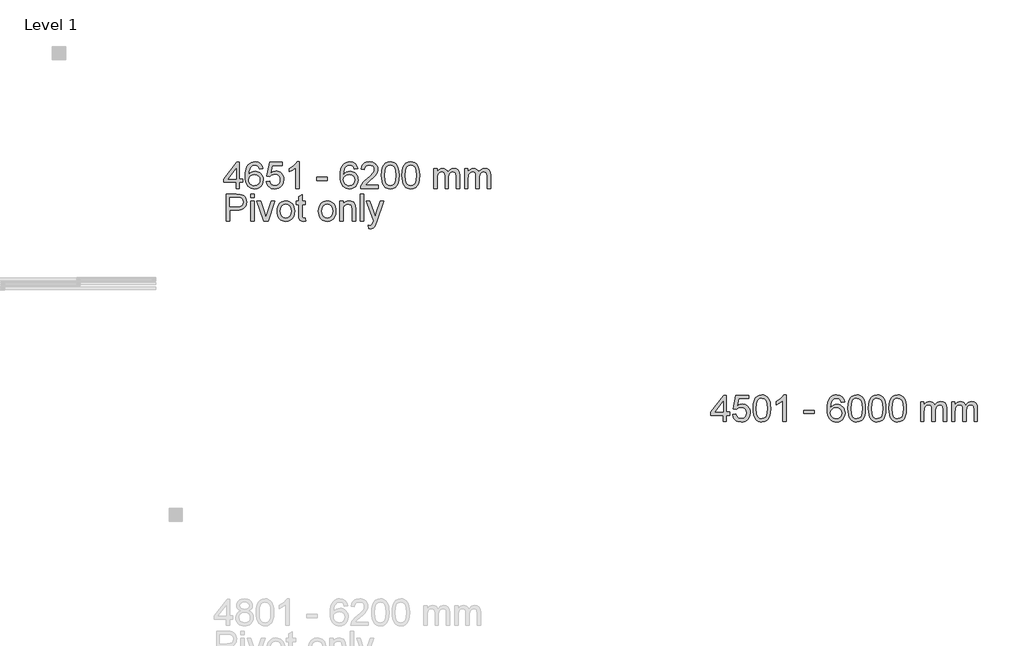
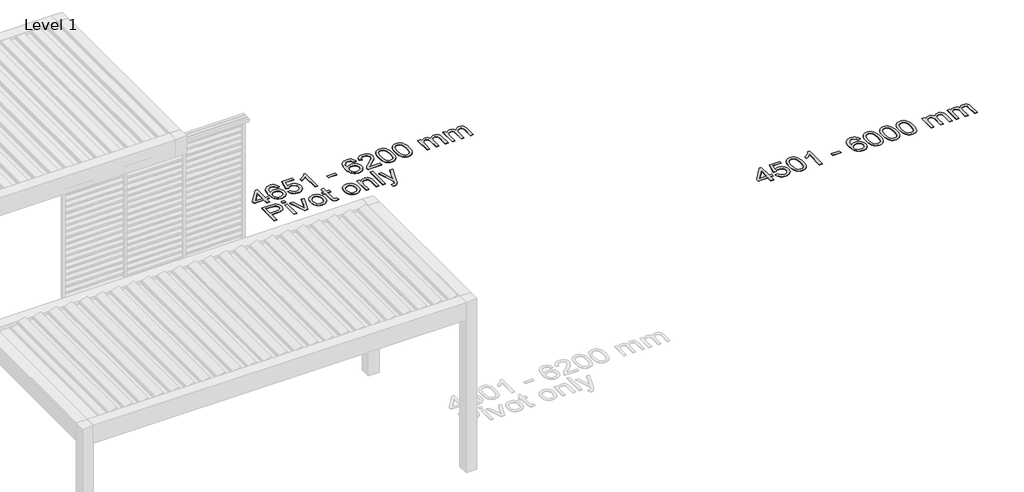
# One storey, part 27 of 69: 2 proxies.
"""IFC4 building model written with IfcOpenShell, lengths in millimetres."""

from ifc_helpers import new_model, si_unit, origin, origin_with_axes, place, context, project, spatial, polyline, outline, extrude, element, save

model = new_model("IFC4")

# Units and contexts
model_context = context("Model", 3, world=origin())
ifc_project = project(units=[si_unit("LENGTHUNIT", "METRE", prefix="MILLI")], contexts=[model_context])

# Site, building, storey
site = spatial("IfcSite", under=ifc_project)
building = spatial("IfcBuilding", under=site)
storey = spatial("IfcBuildingStorey", under=building, Name="Level 1", Elevation=0.0)

# Proxies
placement = place(None, origin())
element("IfcBuildingElementProxy", 1, Name="300mm Arial", ObjectType="300mm Arial", at=placement, inside=storey, context=model_context, shape_type="SweptSolid", body=[
    extrude(outline(polyline([(235334.24809, -31945.7054835), (235334.24809, -31875.0721404), (235197.6902934, -31875.0721404), (235197.6902934, -31837.4010241), (235343.6658691, -31649.0454426), (235371.9192063, -31649.0454426), (235371.9192063, -31837.4010241), (235409.5903226, -31837.4010241), (235409.5903226, -31875.0721404), (235371.9192063, -31875.0721404), (235371.9192063, -31945.7054835), (235334.24809, -31945.7054835)]), holes=[polyline([(235334.24809, -31837.4010241), (235334.24809, -31721.0031609), (235244.0434248, -31837.4010241), (235334.24809, -31837.4010241)])]), origin_with_axes(), (0.0, 0.0, 1.0), 5.0),
    extrude(outline(polyline([(235635.6170204, -31724.3876752), (235597.9459041, -31729.0965647), (235591.8758512, -31710.4265535), (235583.6720827, -31697.6794424), (235566.5839641, -31685.9256126), (235545.92739, -31682.0076694), (235528.4162071, -31684.2885377), (235511.9350937, -31691.1311428), (235497.7808339, -31705.54292), (235486.2201422, -31725.3809566), (235478.4118469, -31753.4411558), (235475.5147761, -31792.5194207), (235490.6255291, -31774.8886761), (235508.7345203, -31762.4634617), (235528.8300743, -31755.0966248), (235549.9005156, -31752.6410124), (235568.0003097, -31754.319474), (235584.7021523, -31759.3548588), (235600.0060433, -31767.7471669), (235613.9119827, -31779.4963981), (235625.4680759, -31793.9035767), (235633.7224282, -31810.269727), (235638.6750395, -31828.5948489), (235640.32591, -31848.8789424), (235637.2173071, -31875.8538897), (235627.8914985, -31900.8606683), (235613.1210364, -31922.0690653), (235593.678473, -31937.6488678), (235570.446725, -31947.2229967), (235544.3087092, -31950.414373), (235521.8518127, -31948.2990516), (235501.5700185, -31941.9530872), (235483.4633265, -31931.3764798), (235467.5317369, -31916.5692295), (235454.5432032, -31896.9059368), (235445.2656791, -31871.7612025), (235439.6991647, -31841.1350264), (235437.8436598, -31805.0274086), (235439.903799, -31764.5465935), (235446.0842165, -31729.9978756), (235456.3849124, -31701.3812549), (235470.8058866, -31678.6967314), (235486.4362729, -31663.6641534), (235504.5590597, -31652.9265976), (235525.174247, -31646.4840642), (235548.2818348, -31644.3365531), (235581.3360321, -31649.6524479), (235607.8051416, -31665.6001324), (235626.3463942, -31690.9288077), (235635.6170204, -31724.3876752)]), holes=[polyline([(235475.5147761, -31848.2903312), (235477.694477, -31864.9829767), (235484.2335794, -31880.9214642), (235494.3871225, -31894.6250685), (235507.4101451, -31904.6130646), (235523.1279034, -31910.7107087), (235541.3656533, -31912.7432567), (235566.2252791, -31908.5310079), (235585.7690101, -31895.8942614), (235598.4333478, -31876.0286336), (235602.6547937, -31850.1297412), (235598.4885301, -31825.2701153), (235585.9897393, -31806.3149955), (235566.1149145, -31794.3128454), (235539.8205489, -31790.3121287), (235514.9977113, -31794.3128454), (235494.2399697, -31806.3149955), (235480.1960745, -31824.8102628), (235475.5147761, -31848.2903312)])]), origin_with_axes(), (0.0, 0.0, 1.0), 5.0),
    extrude(outline(polyline([(235673.2881368, -31865.6543614), (235710.9592531, -31860.9454718), (235717.8754346, -31883.5610175), (235729.941964, -31899.7570223), (235747.1036591, -31909.4966981), (235769.3053375, -31912.7432567), (235796.3078759, -31908.2275052), (235816.5413857, -31894.6802508), (235829.1781322, -31873.6649918), (235833.3903811, -31846.7452268), (235829.4448467, -31821.3981573), (235817.6082435, -31802.0107762), (235797.788601, -31789.7051235), (235769.8939487, -31785.6032392), (235751.6194106, -31787.2403141), (235736.8213573, -31792.1515387), (235715.6681426, -31809.1476869), (235677.9970263, -31804.4387974), (235710.9592531, -31649.0454426), (235856.9348287, -31649.0454426), (235856.9348287, -31686.7165589), (235741.4198823, -31686.7165589), (235725.3066509, -31769.710737), (235752.2172188, -31753.3767764), (235780.4153738, -31747.9321229), (235798.761189, -31749.6197816), (235815.6124836, -31754.6827575), (235830.9692577, -31763.1210508), (235844.8315111, -31774.9346613), (235856.3071301, -31789.4016208), (235864.5040008, -31805.7999607), (235869.4221232, -31824.1296812), (235871.0614974, -31844.390782), (235865.1569913, -31882.0618983), (235857.7763588, -31898.8557114), (235847.4434733, -31914.2883611), (235831.7900944, -31930.0934913), (235813.5247533, -31941.3828701), (235792.6474501, -31948.1564973), (235769.1581847, -31950.414373), (235732.158453, -31944.6110346), (235716.4797823, -31937.3568615), (235702.6819082, -31927.2010191), (235691.2016907, -31914.6493453), (235682.4759896, -31900.2076778), (235673.2881368, -31865.6543614)])), origin_with_axes(), (0.0, 0.0, 1.0), 5.0),
    extrude(outline(polyline([(236045.2904103, -31945.7054835), (236007.619294, -31945.7054835), (236007.619294, -31710.8496178), (235971.9347404, -31736.2702637), (235932.2770614, -31755.2897628), (235932.2770614, -31719.6787857), (235961.8639708, -31703.5839484), (235987.4961488, -31684.4356905), (236007.7020674, -31664.0734221), (236021.0101986, -31644.3365531), (236045.2904103, -31644.3365531), (236045.2904103, -31945.7054835)])), origin_with_axes(), (0.0, 0.0, 1.0), 5.0),
    extrude(outline(polyline([(236243.0637709, -31856.2365823), (236243.0637709, -31818.565466), (236360.7860093, -31818.565466), (236360.7860093, -31856.2365823), (236243.0637709, -31856.2365823)])), origin_with_axes(), (0.0, 0.0, 1.0), 5.0),
    extrude(outline(polyline([(236704.5349456, -31724.3876752), (236666.8638293, -31729.0965647), (236660.7937764, -31710.4265535), (236652.5900079, -31697.6794424), (236635.5018892, -31685.9256126), (236614.8453152, -31682.0076694), (236597.3341322, -31684.2885377), (236580.8530189, -31691.1311428), (236566.6987591, -31705.54292), (236555.1380674, -31725.3809566), (236547.329772, -31753.4411558), (236544.4327013, -31792.5194207), (236559.5434543, -31774.8886761), (236577.6524455, -31762.4634617), (236597.7479995, -31755.0966248), (236618.8184408, -31752.6410124), (236636.9182349, -31754.319474), (236653.6200775, -31759.3548588), (236668.9239685, -31767.7471669), (236682.8299079, -31779.4963981), (236694.3860011, -31793.9035767), (236702.6403534, -31810.269727), (236707.5929647, -31828.5948489), (236709.2438352, -31848.8789424), (236706.1352323, -31875.8538897), (236696.8094237, -31900.8606683), (236682.0389616, -31922.0690653), (236662.5963982, -31937.6488678), (236639.3646502, -31947.2229967), (236613.2266344, -31950.414373), (236590.7697379, -31948.2990516), (236570.4879436, -31941.9530872), (236552.3812517, -31931.3764798), (236536.449662, -31916.5692295), (236523.4611283, -31896.9059368), (236514.1836043, -31871.7612025), (236508.6170898, -31841.1350264), (236506.761585, -31805.0274086), (236508.8217242, -31764.5465935), (236515.0021417, -31729.9978756), (236525.3028376, -31701.3812549), (236539.7238118, -31678.6967314), (236555.3541981, -31663.6641534), (236573.4769849, -31652.9265976), (236594.0921722, -31646.4840642), (236617.19976, -31644.3365531), (236650.2539572, -31649.6524479), (236676.7230668, -31665.6001324), (236695.2643194, -31690.9288077), (236704.5349456, -31724.3876752)]), holes=[polyline([(236544.4327013, -31848.2903312), (236546.6124022, -31864.9829767), (236553.1515046, -31880.9214642), (236563.3050477, -31894.6250685), (236576.3280703, -31904.6130646), (236592.0458286, -31910.7107087), (236610.2835785, -31912.7432567), (236635.1432043, -31908.5310079), (236654.6869353, -31895.8942614), (236667.351273, -31876.0286336), (236671.5727189, -31850.1297412), (236667.4064553, -31825.2701153), (236654.9076645, -31806.3149955), (236635.0328397, -31794.3128454), (236608.7384741, -31790.3121287), (236583.9156365, -31794.3128454), (236563.1578949, -31806.3149955), (236549.1139997, -31824.8102628), (236544.4327013, -31848.2903312)])]), origin_with_axes(), (0.0, 0.0, 1.0), 5.0),
    extrude(outline(polyline([(236935.270533, -31908.0343672), (236935.270533, -31945.7054835), (236737.4971724, -31945.7054835), (236741.5438743, -31919.7330146), (236750.8328947, -31899.4351256), (236764.4261344, -31879.7442418), (236784.0894271, -31859.133653), (236811.5886062, -31836.0766489), (236852.2395667, -31799.9690311), (236876.630143, -31773.3159806), (236888.8254311, -31751.6845193), (236892.8905272, -31730.6416691), (236889.0553574, -31711.7785198), (236877.549848, -31696.0975498), (236859.863921, -31685.5301395), (236837.4874987, -31682.0076694), (236813.9890362, -31685.447366), (236795.7328922, -31695.766456), (236783.9514713, -31712.1555989), (236779.8771782, -31733.8054543), (236742.2060619, -31729.0965647), (236751.3387325, -31692.6578531), (236759.8850911, -31678.1219158), (236771.0847986, -31666.0415908), (236784.6803375, -31656.5456368), (236800.4141906, -31649.7628125), (236838.2968391, -31644.3365531), (236858.4866628, -31645.8448692), (236876.455399, -31650.3698178), (236892.2030477, -31657.9113987), (236905.7296088, -31668.4696119), (236916.593624, -31681.2627083), (236924.3536348, -31695.5089386), (236929.0096413, -31711.2083027), (236930.5616435, -31728.3608008), (236928.8877804, -31746.3778215), (236923.8661912, -31764.0821425), (236914.9542498, -31782.0899662), (236901.6093305, -31801.0174948), (236880.3365541, -31823.6146464), (236847.6410418, -31852.6313387), (236804.3045427, -31888.8677153), (236787.3083945, -31908.0343672), (236935.270533, -31908.0343672)])), origin_with_axes(), (0.0, 0.0, 1.0), 5.0),
    extrude(outline(polyline([(236972.9416493, -31797.4490395), (236975.7099613, -31749.2105128), (236984.0148974, -31710.7392532), (236997.773684, -31681.4466493), (237016.9035477, -31660.74409), (237041.5424444, -31648.4384373), (237071.8283296, -31644.3365531), (237095.0416835, -31646.7645742), (237115.8270162, -31654.0486377), (237133.2094405, -31665.903635), (237146.214069, -31682.0444576), (237156.0365183, -31702.3331496), (237163.8724048, -31726.6317554), (237169.0043586, -31757.4878577), (237170.7150099, -31797.4490395), (237167.9742891, -31845.4116546), (237159.7521265, -31883.7909437), (237146.0761133, -31913.1111387), (237126.9738407, -31933.8964715), (237102.2797618, -31946.2848976), (237071.8283296, -31950.414373), (237051.0797851, -31948.6209483), (237032.6856853, -31943.2406741), (237016.6460303, -31934.2735505), (237002.9608201, -31921.7195774), (236989.8274329, -31899.0258568), (236980.446442, -31870.749527), (236974.8178475, -31836.8905879), (236972.9416493, -31797.4490395)]), holes=[polyline([(237010.6127656, -31797.3754631), (237015.0273496, -31856.6320554), (237020.5455795, -31876.9000541), (237028.2711014, -31890.9278544), (237047.9895763, -31907.2894062), (237071.8283296, -31912.7432567), (237095.6670829, -31907.2710121), (237115.3855578, -31890.854278), (237123.1110797, -31876.8034851), (237128.6293097, -31856.5400849), (237133.0438936, -31797.3754631), (237128.7764625, -31739.4524429), (237123.4421735, -31719.2511229), (237115.974169, -31704.8899295), (237096.2924823, -31687.7282344), (237071.3868712, -31682.0076694), (237047.8056353, -31687.0476527), (237028.8597126, -31702.1676027), (237020.8766733, -31717.8025875), (237015.1745024, -31738.8822258), (237010.6127656, -31797.3754631)])]), origin_with_axes(), (0.0, 0.0, 1.0), 5.0),
    extrude(outline(polyline([(237203.6772367, -31797.4490395), (237206.4455487, -31749.2105128), (237214.7504847, -31710.7392532), (237228.5092714, -31681.4466493), (237247.6391351, -31660.74409), (237272.2780317, -31648.4384373), (237302.563917, -31644.3365531), (237325.7772709, -31646.7645742), (237346.5626036, -31654.0486377), (237363.9450279, -31665.903635), (237376.9496564, -31682.0444576), (237386.7721057, -31702.3331496), (237394.6079922, -31726.6317554), (237399.739946, -31757.4878577), (237401.4505973, -31797.4490395), (237398.7098764, -31845.4116546), (237390.4877138, -31883.7909437), (237376.8117007, -31913.1111387), (237357.7094281, -31933.8964715), (237333.0153491, -31946.2848976), (237302.563917, -31950.414373), (237281.8153725, -31948.6209483), (237263.4212727, -31943.2406741), (237247.3816177, -31934.2735505), (237233.6964075, -31921.7195774), (237220.5630203, -31899.0258568), (237211.1820294, -31870.749527), (237205.5534349, -31836.8905879), (237203.6772367, -31797.4490395)]), holes=[polyline([(237241.348353, -31797.3754631), (237245.7629369, -31856.6320554), (237251.2811669, -31876.9000541), (237259.0066888, -31890.9278544), (237278.7251637, -31907.2894062), (237302.563917, -31912.7432567), (237326.4026703, -31907.2710121), (237346.1211452, -31890.854278), (237353.8466671, -31876.8034851), (237359.364897, -31856.5400849), (237363.779481, -31797.3754631), (237359.5120498, -31739.4524429), (237354.1777609, -31719.2511229), (237346.7097564, -31704.8899295), (237327.0280697, -31687.7282344), (237302.1224586, -31682.0076694), (237278.5412227, -31687.0476527), (237259.5953, -31702.1676027), (237251.6122607, -31717.8025875), (237245.9100897, -31738.8822258), (237241.348353, -31797.3754631)])]), origin_with_axes(), (0.0, 0.0, 1.0), 5.0),
    extrude(outline(polyline([(237561.5528416, -31945.7054835), (237561.5528416, -31724.3876752), (237599.2239579, -31724.3876752), (237599.2239579, -31760.8079927), (237610.5547234, -31744.078559), (237625.1228504, -31730.9727629), (237642.4316982, -31722.50228), (237661.9846263, -31719.6787857), (237682.9355059, -31722.5574623), (237699.729319, -31731.1934921), (237712.274095, -31745.0166581), (237720.4778635, -31763.4567431), (237734.209059, -31744.3038867), (237749.8716349, -31730.623275), (237767.4655913, -31722.414908), (237786.9909282, -31719.6787857), (237815.3086448, -31724.2313254), (237836.2503274, -31737.8889444), (237849.1905766, -31761.0195249), (237853.503993, -31793.9909487), (237853.503993, -31945.7054835), (237815.8328767, -31945.7054835), (237815.8328767, -31810.1777565), (237812.3379977, -31778.7238459), (237807.4267731, -31770.0510279), (237799.6828571, -31763.2360139), (237789.7224521, -31758.82143), (237778.1617604, -31757.349902), (237757.7535067, -31761.1206924), (237741.1160434, -31772.4330638), (237730.0519924, -31792.0595682), (237726.3639754, -31820.7727579), (237726.3639754, -31945.7054835), (237688.6928591, -31945.7054835), (237688.6928591, -31805.9839017), (237686.5131583, -31784.6835342), (237679.9740558, -31769.4900078), (237668.4685464, -31760.3849284), (237651.3896248, -31757.349902), (237636.8766801, -31759.3732529), (237623.5041696, -31765.4433059), (237612.4677097, -31775.4129079), (237604.962917, -31789.1349064), (237600.6586977, -31808.1727996), (237599.2239579, -31834.0900862), (237599.2239579, -31945.7054835), (237561.5528416, -31945.7054835)])), origin_with_axes(), (0.0, 0.0, 1.0), 5.0),
    extrude(outline(polyline([(237910.0106674, -31945.7054835), (237910.0106674, -31724.3876752), (237947.6817837, -31724.3876752), (237947.6817837, -31760.8079927), (237959.0125492, -31744.078559), (237973.5806762, -31730.9727629), (237990.8895241, -31722.50228), (238010.4424521, -31719.6787857), (238031.3933317, -31722.5574623), (238048.1871448, -31731.1934921), (238060.7319209, -31745.0166581), (238068.9356893, -31763.4567431), (238082.6668848, -31744.3038867), (238098.3294608, -31730.623275), (238115.9234172, -31722.414908), (238135.4487541, -31719.6787857), (238163.7664707, -31724.2313254), (238184.7081532, -31737.8889444), (238197.6484024, -31761.0195249), (238201.9618188, -31793.9909487), (238201.9618188, -31945.7054835), (238164.2907025, -31945.7054835), (238164.2907025, -31810.1777565), (238160.7958235, -31778.7238459), (238155.8845989, -31770.0510279), (238148.1406829, -31763.2360139), (238138.1802779, -31758.82143), (238126.6195862, -31757.349902), (238106.2113325, -31761.1206924), (238089.5738693, -31772.4330638), (238078.5098183, -31792.0595682), (238074.8218013, -31820.7727579), (238074.8218013, -31945.7054835), (238037.150685, -31945.7054835), (238037.150685, -31805.9839017), (238034.9709841, -31784.6835342), (238028.4318817, -31769.4900078), (238016.9263723, -31760.3849284), (237999.8474507, -31757.349902), (237985.3345059, -31759.3732529), (237971.9619954, -31765.4433059), (237960.9255356, -31775.4129079), (237953.4207429, -31789.1349064), (237949.1165235, -31808.1727996), (237947.6817837, -31834.0900862), (237947.6817837, -31945.7054835), (237910.0106674, -31945.7054835)])), origin_with_axes(), (0.0, 0.0, 1.0), 5.0),
    extrude(outline(polyline([(235225.9436306, -32311.629937), (235225.9436306, -32010.2610066), (235337.6326044, -32010.2610066), (235382.6613606, -32013.1304862), (235402.7385205, -32018.4923662), (235419.2656191, -32027.2203666), (235432.5737503, -32039.7099603), (235442.9940078, -32056.3566206), (235449.7262483, -32075.9923221), (235451.9703285, -32097.4490395), (235450.4551145, -32115.9489053), (235445.9094726, -32132.9680461), (235438.3334027, -32148.5064619), (235427.726905, -32162.5641526), (235413.1656758, -32174.2168148), (235393.7254116, -32182.5401449), (235369.4061124, -32187.534143), (235340.2077783, -32189.198809), (235263.6147469, -32189.198809), (235263.6147469, -32311.629937), (235225.9436306, -32311.629937)]), holes=[polyline([(235263.6147469, -32151.5276927), (235342.4150703, -32151.5276927), (235375.8187555, -32148.069602), (235397.8916752, -32137.6953297), (235410.1973279, -32121.0486694), (235414.2992122, -32098.7734146), (235411.880388, -32081.8508429), (235404.6239157, -32067.5770214), (235393.431106, -32056.8348672), (235379.2032698, -32050.5072969), (235341.5321535, -32047.9321229), (235263.6147469, -32047.9321229), (235263.6147469, -32151.5276927)])]), origin_with_axes(), (0.0, 0.0, 1.0), 5.0),
    extrude(outline(polyline([(235499.0592238, -32047.9321229), (235499.0592238, -32010.2610066), (235536.7303401, -32010.2610066), (235536.7303401, -32047.9321229), (235499.0592238, -32047.9321229)])), origin_with_axes(), (0.0, 0.0, 1.0), 5.0),
    extrude(outline(polyline([(235499.0592238, -32311.629937), (235499.0592238, -32090.3121287), (235536.7303401, -32090.3121287), (235536.7303401, -32311.629937), (235499.0592238, -32311.629937)])), origin_with_axes(), (0.0, 0.0, 1.0), 5.0),
    extrude(outline(polyline([(235647.5363971, -32311.629937), (235569.6925669, -32090.3121287), (235609.5709752, -32090.3121287), (235656.733447, -32222.8967998), (235670.933692, -32267.4840976), (235684.8396314, -32225.3983974), (235732.2964088, -32090.3121287), (235772.1748171, -32090.3121287), (235695.2874801, -32311.629937), (235647.5363971, -32311.629937)])), origin_with_axes(), (0.0, 0.0, 1.0), 5.0),
    extrude(outline(polyline([(235795.7192647, -32200.9710329), (235797.7564113, -32172.3084269), (235803.8678509, -32147.6097495), (235814.0535837, -32126.8750005), (235828.3136095, -32110.1041801), (235842.6702044, -32099.3850184), (235858.5167213, -32091.7284744), (235875.8531603, -32087.134548), (235894.6795215, -32085.6032392), (235915.4625549, -32087.4679411), (235934.2544271, -32093.0620467), (235951.055138, -32102.385556), (235965.8646875, -32115.438469), (235977.9519103, -32131.7793274), (235986.5856409, -32150.9666727), (235991.7658792, -32173.0005049), (235993.4926254, -32197.8808241), (235990.4392048, -32235.9382165), (235981.2789431, -32264.9089237), (235966.2785548, -32286.6047643), (235945.7047542, -32302.8375574), (235921.2681927, -32312.9635093), (235894.6795215, -32316.3388266), (235873.5929853, -32314.4810225), (235854.6263692, -32308.9076103), (235837.7796731, -32299.6185899), (235823.052897, -32286.6139614), (235811.0944329, -32270.1144539), (235802.5526728, -32250.3407966), (235797.4276168, -32227.2929896), (235795.7192647, -32200.9710329)]), holes=[polyline([(235833.3903811, -32200.8974565), (235837.7497827, -32234.9909204), (235850.8279876, -32259.2803291), (235870.5096744, -32273.820865), (235894.6795215, -32278.6677103), (235918.7390039, -32273.7932738), (235938.3839025, -32259.1699645), (235951.4621074, -32234.5586591), (235955.8215091, -32199.7202341), (235951.4345163, -32166.6200516), (235938.2735379, -32142.6617367), (235918.6010482, -32128.1212008), (235894.6795215, -32123.2743555), (235870.5096744, -32128.1028067), (235850.8279876, -32142.5881603), (235837.7497827, -32166.8223867), (235833.3903811, -32200.8974565)])]), origin_with_axes(), (0.0, 0.0, 1.0), 5.0),
    extrude(outline(polyline([(236115.9237534, -32280.2128147), (236120.6326429, -32312.733583), (236092.4528821, -32316.3388266), (236074.371482, -32314.7753281), (236060.8886069, -32310.0848327), (236051.3604632, -32302.8559515), (236045.1432575, -32293.6772957), (236041.7219549, -32277.9135522), (236040.5815207, -32250.9294078), (236040.5815207, -32127.983245), (236012.3281835, -32127.983245), (236012.3281835, -32090.3121287), (236040.5815207, -32090.3121287), (236040.5815207, -32036.527781), (236078.252637, -32014.3812849), (236078.252637, -32090.3121287), (236115.9237534, -32090.3121287), (236115.9237534, -32127.983245), (236078.252637, -32127.983245), (236078.252637, -32249.8257619), (236080.2391998, -32269.2499312), (236086.6771347, -32276.1293245), (236099.5162164, -32278.6677103), (236115.9237534, -32280.2128147)])), origin_with_axes(), (0.0, 0.0, 1.0), 5.0),
    extrude(outline(polyline([(236261.899329, -32200.9710329), (236263.9364756, -32172.3084269), (236270.0479152, -32147.6097495), (236280.233648, -32126.8750005), (236294.4936738, -32110.1041801), (236308.8502687, -32099.3850184), (236324.6967856, -32091.7284744), (236342.0332246, -32087.134548), (236360.8595857, -32085.6032392), (236381.6426192, -32087.4679411), (236400.4344914, -32093.0620467), (236417.2352022, -32102.385556), (236432.0447518, -32115.438469), (236444.1319746, -32131.7793274), (236452.7657052, -32150.9666727), (236457.9459435, -32173.0005049), (236459.6726896, -32197.8808241), (236456.6192691, -32235.9382165), (236447.4590074, -32264.9089237), (236432.4586191, -32286.6047643), (236411.8848185, -32302.8375574), (236387.4482569, -32312.9635093), (236360.8595857, -32316.3388266), (236339.7730496, -32314.4810225), (236320.8064335, -32308.9076103), (236303.9597374, -32299.6185899), (236289.2329613, -32286.6139614), (236277.2744972, -32270.1144539), (236268.7327371, -32250.3407966), (236263.6076811, -32227.2929896), (236261.899329, -32200.9710329)]), holes=[polyline([(236299.5704453, -32200.8974565), (236303.929847, -32234.9909204), (236317.0080519, -32259.2803291), (236336.6897387, -32273.820865), (236360.8595857, -32278.6677103), (236384.9190682, -32273.7932738), (236404.5639668, -32259.1699645), (236417.6421717, -32234.5586591), (236422.0015733, -32199.7202341), (236417.6145805, -32166.6200516), (236404.4536022, -32142.6617367), (236384.7811125, -32128.1212008), (236360.8595857, -32123.2743555), (236336.6897387, -32128.1028067), (236317.0080519, -32142.5881603), (236303.929847, -32166.8223867), (236299.5704453, -32200.8974565)])]), origin_with_axes(), (0.0, 0.0, 1.0), 5.0),
    extrude(outline(polyline([(236502.0526955, -32311.629937), (236502.0526955, -32090.3121287), (236539.7238118, -32090.3121287), (236539.7238118, -32121.2142163), (236552.8112138, -32105.6344138), (236568.528972, -32094.5059835), (236586.8770865, -32087.8289253), (236607.8555573, -32085.6032392), (236626.424401, -32087.3966639), (236643.4297462, -32092.7769381), (236657.6115971, -32101.0726771), (236667.7099579, -32111.6124963), (236679.0039352, -32139.3140105), (236680.9904979, -32175.734328), (236680.9904979, -32311.629937), (236643.3193816, -32311.629937), (236643.3193816, -32180.8110996), (236638.9783741, -32147.4809908), (236632.9727005, -32137.557374), (236623.6376949, -32129.8594432), (236611.672333, -32124.9206274), (236597.7755906, -32123.2743555), (236575.711868, -32126.9715696), (236556.903901, -32138.0632117), (236549.387612, -32147.1177073), (236544.0188341, -32159.4923379), (236539.7238118, -32194.2020042), (236539.7238118, -32311.629937), (236502.0526955, -32311.629937)])), origin_with_axes(), (0.0, 0.0, 1.0), 5.0),
    extrude(outline(polyline([(236732.7882829, -32311.629937), (236732.7882829, -32010.2610066), (236770.4593992, -32010.2610066), (236770.4593992, -32311.629937), (236732.7882829, -32311.629937)])), origin_with_axes(), (0.0, 0.0, 1.0), 5.0),
    extrude(outline(polyline([(236826.9660736, -32396.3899487), (236822.2571841, -32360.116784), (236841.3870478, -32363.427722), (236859.2661128, -32359.2706554), (236870.2289963, -32347.6823726), (236880.5296921, -32319.9440701), (236883.4727481, -32310.8205967), (236803.4216259, -32090.3121287), (236843.1528814, -32090.3121287), (236885.6064637, -32213.1847151), (236900.3953199, -32262.3337497), (236915.1841761, -32218.9236743), (236958.8149807, -32090.3121287), (236998.2519306, -32090.3121287), (236921.2174408, -32316.9274378), (236901.2046603, -32366.0764723), (236890.9591467, -32381.7666394), (236879.3524697, -32392.6375524), (236865.8695946, -32398.9835168), (236849.9954865, -32401.0988383), (236826.9660736, -32396.3899487)])), origin_with_axes(), (0.0, 0.0, 1.0), 5.0),
])
element("IfcBuildingElementProxy", 2, Name="300mm Arial", ObjectType="300mm Arial", at=placement, inside=storey, context=model_context, shape_type="SweptSolid", body=[
    extrude(outline(polyline([(240822.234808, -34575.0637053), (240822.234808, -34504.4303622), (240685.6770114, -34504.4303622), (240685.6770114, -34466.7592459), (240831.6525871, -34278.4036644), (240859.9059243, -34278.4036644), (240859.9059243, -34466.7592459), (240897.5770406, -34466.7592459), (240897.5770406, -34504.4303622), (240859.9059243, -34504.4303622), (240859.9059243, -34575.0637053), (240822.234808, -34575.0637053)]), holes=[polyline([(240822.234808, -34466.7592459), (240822.234808, -34350.3613827), (240732.0301428, -34466.7592459), (240822.234808, -34466.7592459)])]), origin_with_axes(), (0.0, 0.0, 1.0), 5.0),
    extrude(outline(polyline([(240930.5392674, -34495.0125832), (240968.2103837, -34490.3036936), (240975.1265652, -34512.9192393), (240987.1930946, -34529.1152441), (241004.3547897, -34538.8549199), (241026.5564681, -34542.1014785), (241053.5590065, -34537.5857271), (241073.7925163, -34524.0384726), (241086.4292628, -34503.0232136), (241090.6415117, -34476.1034486), (241086.6959773, -34450.7563791), (241074.8593741, -34431.368998), (241055.0397316, -34419.0633453), (241027.1450793, -34414.961461), (241008.8705412, -34416.5985359), (240994.0724879, -34421.5097605), (240972.9192732, -34438.5059087), (240935.2481569, -34433.7970192), (240968.2103837, -34278.4036644), (241114.1859593, -34278.4036644), (241114.1859593, -34316.0747807), (240998.6710129, -34316.0747807), (240982.5577815, -34399.0689588), (241009.4683494, -34382.7349982), (241037.6665044, -34377.2903447), (241056.0123196, -34378.9780034), (241072.8636142, -34384.0409793), (241088.2203883, -34392.4792726), (241102.0826417, -34404.2928832), (241113.5582607, -34418.7598426), (241121.7551314, -34435.1581825), (241126.6732538, -34453.487903), (241128.312628, -34473.7490038), (241122.4081219, -34511.4201201), (241115.0274894, -34528.2139332), (241104.6946039, -34543.6465829), (241089.041225, -34559.4517131), (241070.7758839, -34570.7410919), (241049.8985807, -34577.5147191), (241026.4093153, -34579.7725949), (240989.4095836, -34573.9692564), (240973.7309129, -34566.7150833), (240959.9330388, -34556.559241), (240948.4528213, -34544.0075671), (240939.7271202, -34529.5658996), (240930.5392674, -34495.0125832)])), origin_with_axes(), (0.0, 0.0, 1.0), 5.0),
    extrude(outline(polyline([(241161.2748547, -34426.8072613), (241164.0431667, -34378.5687346), (241172.3481028, -34340.097475), (241186.1068894, -34310.8048711), (241205.2367532, -34290.1023118), (241229.8756498, -34277.7966591), (241260.161535, -34273.6947749), (241283.3748889, -34276.122796), (241304.1602217, -34283.4068595), (241321.5426459, -34295.2618568), (241334.5472745, -34311.4026794), (241344.3697237, -34331.6913714), (241352.2056102, -34355.9899772), (241357.3375641, -34386.8460795), (241359.0482153, -34426.8072613), (241356.3074945, -34474.7698764), (241348.0853319, -34513.1491655), (241334.4093187, -34542.4693605), (241315.3070461, -34563.2546933), (241290.6129672, -34575.6431195), (241260.161535, -34579.7725949), (241239.4129905, -34577.9791701), (241221.0188907, -34572.5988959), (241204.9792358, -34563.6317723), (241191.2940255, -34551.0777992), (241178.1606383, -34528.3840787), (241168.7796474, -34500.1077488), (241163.1510529, -34466.2488097), (241161.2748547, -34426.8072613)]), holes=[polyline([(241198.945971, -34426.7336849), (241203.360555, -34485.9902772), (241208.8787849, -34506.2582759), (241216.6043068, -34520.2860762), (241236.3227817, -34536.647628), (241260.161535, -34542.1014785), (241284.0002883, -34536.6292339), (241303.7187633, -34520.2124998), (241311.4442852, -34506.1617069), (241316.9625151, -34485.8983067), (241321.377099, -34426.7336849), (241317.1096679, -34368.8106647), (241311.775379, -34348.6093447), (241304.3073745, -34334.2481513), (241284.6256877, -34317.0864562), (241259.7200766, -34311.3658912), (241236.1388407, -34316.4058745), (241217.192918, -34331.5258245), (241209.2098787, -34347.1608093), (241203.5077078, -34368.2404476), (241198.945971, -34426.7336849)])]), origin_with_axes(), (0.0, 0.0, 1.0), 5.0),
    extrude(outline(polyline([(241533.2771283, -34575.0637053), (241495.6060119, -34575.0637053), (241495.6060119, -34340.2078396), (241459.9214584, -34365.6284855), (241420.2637793, -34384.6479846), (241420.2637793, -34349.0370075), (241449.8506888, -34332.9421702), (241475.4828668, -34313.7939123), (241495.6887854, -34293.4316439), (241508.9969166, -34273.6947749), (241533.2771283, -34273.6947749), (241533.2771283, -34575.0637053)])), origin_with_axes(), (0.0, 0.0, 1.0), 5.0),
    extrude(outline(polyline([(241731.0504889, -34485.5948041), (241731.0504889, -34447.9236878), (241848.7727273, -34447.9236878), (241848.7727273, -34485.5948041), (241731.0504889, -34485.5948041)])), origin_with_axes(), (0.0, 0.0, 1.0), 5.0),
    extrude(outline(polyline([(242192.5216636, -34353.745897), (242154.8505473, -34358.4547866), (242148.7804944, -34339.7847753), (242140.5767259, -34327.0376642), (242123.4886072, -34315.2838344), (242102.8320332, -34311.3658912), (242085.3208502, -34313.6467595), (242068.8397368, -34320.4893647), (242054.6854771, -34334.9011418), (242043.1247854, -34354.7391784), (242035.31649, -34382.7993776), (242032.4194193, -34421.8776425), (242047.5301723, -34404.2468979), (242065.6391635, -34391.8216835), (242085.7347175, -34384.4548466), (242106.8051587, -34381.9992342), (242124.9049529, -34383.6776958), (242141.6067955, -34388.7130807), (242156.9106865, -34397.1053887), (242170.8166259, -34408.8546199), (242182.3727191, -34423.2617985), (242190.6270713, -34439.6279488), (242195.5796827, -34457.9530707), (242197.2305531, -34478.2371642), (242194.1219503, -34505.2121115), (242184.7961417, -34530.2188901), (242170.0256796, -34551.4272871), (242150.5831162, -34567.0070896), (242127.3513682, -34576.5812185), (242101.2133524, -34579.7725949), (242078.7564559, -34577.6572734), (242058.4746616, -34571.311309), (242040.3679697, -34560.7347016), (242024.43638, -34545.9274513), (242011.4478463, -34526.2641587), (242002.1703223, -34501.1194243), (241996.6038078, -34470.4932482), (241994.748303, -34434.3856304), (241996.8084422, -34393.9048153), (242002.9888597, -34359.3560974), (242013.2895556, -34330.7394767), (242027.7105298, -34308.0549532), (242043.340916, -34293.0223752), (242061.4637028, -34282.2848195), (242082.0788901, -34275.842286), (242105.186478, -34273.6947749), (242138.2406752, -34279.0106697), (242164.7097848, -34294.9583542), (242183.2510373, -34320.2870296), (242192.5216636, -34353.745897)]), holes=[polyline([(242032.4194193, -34477.648553), (242034.5991201, -34494.3411985), (242041.1382226, -34510.279686), (242051.2917657, -34523.9832903), (242064.3147883, -34533.9712865), (242080.0325465, -34540.0689305), (242098.2702964, -34542.1014785), (242123.1299223, -34537.8892297), (242142.6736533, -34525.2524832), (242155.3379909, -34505.3868554), (242159.5594368, -34479.487963), (242155.3931732, -34454.6283371), (242142.8943825, -34435.6732173), (242123.0195577, -34423.6710672), (242096.7251921, -34419.6703506), (242071.9023544, -34423.6710672), (242051.1446129, -34435.6732173), (242037.1007177, -34454.1684846), (242032.4194193, -34477.648553)])]), origin_with_axes(), (0.0, 0.0, 1.0), 5.0),
    extrude(outline(polyline([(242230.1927799, -34426.8072613), (242232.9610919, -34378.5687346), (242241.266028, -34340.097475), (242255.0248146, -34310.8048711), (242274.1546783, -34290.1023118), (242298.793575, -34277.7966591), (242329.0794602, -34273.6947749), (242352.2928141, -34276.122796), (242373.0781468, -34283.4068595), (242390.4605711, -34295.2618568), (242403.4651996, -34311.4026794), (242413.2876489, -34331.6913714), (242421.1235354, -34355.9899772), (242426.2554892, -34386.8460795), (242427.9661405, -34426.8072613), (242425.2254197, -34474.7698764), (242417.0032571, -34513.1491655), (242403.3272439, -34542.4693605), (242384.2249713, -34563.2546933), (242359.5308924, -34575.6431195), (242329.0794602, -34579.7725949), (242308.3309157, -34577.9791701), (242289.9368159, -34572.5988959), (242273.8971609, -34563.6317723), (242260.2119507, -34551.0777992), (242247.0785635, -34528.3840787), (242237.6975726, -34500.1077488), (242232.0689781, -34466.2488097), (242230.1927799, -34426.8072613)]), holes=[polyline([(242267.8638962, -34426.7336849), (242272.2784802, -34485.9902772), (242277.7967101, -34506.2582759), (242285.522232, -34520.2860762), (242305.2407069, -34536.647628), (242329.0794602, -34542.1014785), (242352.9182135, -34536.6292339), (242372.6366884, -34520.2124998), (242380.3622103, -34506.1617069), (242385.8804403, -34485.8983067), (242390.2950242, -34426.7336849), (242386.0275931, -34368.8106647), (242380.6933041, -34348.6093447), (242373.2252996, -34334.2481513), (242353.5436129, -34317.0864562), (242328.6380018, -34311.3658912), (242305.0567659, -34316.4058745), (242286.1108432, -34331.5258245), (242278.1278039, -34347.1608093), (242272.425633, -34368.2404476), (242267.8638962, -34426.7336849)])]), origin_with_axes(), (0.0, 0.0, 1.0), 5.0),
    extrude(outline(polyline([(242460.9283673, -34426.8072613), (242463.6966793, -34378.5687346), (242472.0016153, -34340.097475), (242485.760402, -34310.8048711), (242504.8902657, -34290.1023118), (242529.5291623, -34277.7966591), (242559.8150476, -34273.6947749), (242583.0284015, -34276.122796), (242603.8137342, -34283.4068595), (242621.1961585, -34295.2618568), (242634.200787, -34311.4026794), (242644.0232363, -34331.6913714), (242651.8591228, -34355.9899772), (242656.9910766, -34386.8460795), (242658.7017279, -34426.8072613), (242655.961007, -34474.7698764), (242647.7388444, -34513.1491655), (242634.0628313, -34542.4693605), (242614.9605587, -34563.2546933), (242590.2664797, -34575.6431195), (242559.8150476, -34579.7725949), (242539.0665031, -34577.9791701), (242520.6724033, -34572.5988959), (242504.6327483, -34563.6317723), (242490.9475381, -34551.0777992), (242477.8141509, -34528.3840787), (242468.43316, -34500.1077488), (242462.8045655, -34466.2488097), (242460.9283673, -34426.8072613)]), holes=[polyline([(242498.5994836, -34426.7336849), (242503.0140675, -34485.9902772), (242508.5322975, -34506.2582759), (242516.2578194, -34520.2860762), (242535.9762943, -34536.647628), (242559.8150476, -34542.1014785), (242583.6538009, -34536.6292339), (242603.3722758, -34520.2124998), (242611.0977977, -34506.1617069), (242616.6160277, -34485.8983067), (242621.0306116, -34426.7336849), (242616.7631804, -34368.8106647), (242611.4288915, -34348.6093447), (242603.960887, -34334.2481513), (242584.2792003, -34317.0864562), (242559.3735892, -34311.3658912), (242535.7923533, -34316.4058745), (242516.8464306, -34331.5258245), (242508.8633913, -34347.1608093), (242503.1612203, -34368.2404476), (242498.5994836, -34426.7336849)])]), origin_with_axes(), (0.0, 0.0, 1.0), 5.0),
    extrude(outline(polyline([(242691.6639547, -34426.8072613), (242694.4322667, -34378.5687346), (242702.7372027, -34340.097475), (242716.4959893, -34310.8048711), (242735.6258531, -34290.1023118), (242760.2647497, -34277.7966591), (242790.550635, -34273.6947749), (242813.7639889, -34276.122796), (242834.5493216, -34283.4068595), (242851.9317459, -34295.2618568), (242864.9363744, -34311.4026794), (242874.7588237, -34331.6913714), (242882.5947102, -34355.9899772), (242887.726664, -34386.8460795), (242889.4373153, -34426.8072613), (242886.6965944, -34474.7698764), (242878.4744318, -34513.1491655), (242864.7984186, -34542.4693605), (242845.696146, -34563.2546933), (242821.0020671, -34575.6431195), (242790.550635, -34579.7725949), (242769.8020904, -34577.9791701), (242751.4079907, -34572.5988959), (242735.3683357, -34563.6317723), (242721.6831255, -34551.0777992), (242708.5497382, -34528.3840787), (242699.1687474, -34500.1077488), (242693.5401528, -34466.2488097), (242691.6639547, -34426.8072613)]), holes=[polyline([(242729.335071, -34426.7336849), (242733.7496549, -34485.9902772), (242739.2678848, -34506.2582759), (242746.9934067, -34520.2860762), (242766.7118817, -34536.647628), (242790.550635, -34542.1014785), (242814.3893883, -34536.6292339), (242834.1078632, -34520.2124998), (242841.8333851, -34506.1617069), (242847.351615, -34485.8983067), (242851.766199, -34426.7336849), (242847.4987678, -34368.8106647), (242842.1644789, -34348.6093447), (242834.6964744, -34334.2481513), (242815.0147876, -34317.0864562), (242790.1091766, -34311.3658912), (242766.5279407, -34316.4058745), (242747.5820179, -34331.5258245), (242739.5989786, -34347.1608093), (242733.8968077, -34368.2404476), (242729.335071, -34426.7336849)])]), origin_with_axes(), (0.0, 0.0, 1.0), 5.0),
    extrude(outline(polyline([(243049.5395596, -34575.0637053), (243049.5395596, -34353.745897), (243087.2106759, -34353.745897), (243087.2106759, -34390.1662145), (243098.5414413, -34373.4367808), (243113.1095683, -34360.3309847), (243130.4184162, -34351.8605018), (243149.9713443, -34349.0370075), (243170.9222239, -34351.9156841), (243187.716037, -34360.5517139), (243200.260813, -34374.3748799), (243208.4645815, -34392.8149649), (243222.195777, -34373.6621085), (243237.8583529, -34359.9814968), (243255.4523093, -34351.7731298), (243274.9776462, -34349.0370075), (243303.2953628, -34353.5895472), (243324.2370454, -34367.2471662), (243337.1772946, -34390.3777467), (243341.4907109, -34423.3491705), (243341.4907109, -34575.0637053), (243303.8195946, -34575.0637053), (243303.8195946, -34439.5359783), (243300.3247157, -34408.0820677), (243295.4134911, -34399.4092497), (243287.6695751, -34392.5942357), (243277.70917, -34388.1796518), (243266.1484783, -34386.7081238), (243245.7402247, -34390.4789142), (243229.1027614, -34401.7912856), (243218.0387104, -34421.41779), (243214.3506934, -34450.1309798), (243214.3506934, -34575.0637053), (243176.6795771, -34575.0637053), (243176.6795771, -34435.3421235), (243174.4998763, -34414.041756), (243167.9607738, -34398.8482296), (243156.4552644, -34389.7431502), (243139.3763428, -34386.7081238), (243124.8633981, -34388.7314748), (243111.4908876, -34394.8015277), (243100.4544277, -34404.7711297), (243092.949635, -34418.4931282), (243088.6454157, -34437.5310214), (243087.2106759, -34463.448308), (243087.2106759, -34575.0637053), (243049.5395596, -34575.0637053)])), origin_with_axes(), (0.0, 0.0, 1.0), 5.0),
    extrude(outline(polyline([(243397.9973854, -34575.0637053), (243397.9973854, -34353.745897), (243435.6685017, -34353.745897), (243435.6685017, -34390.1662145), (243446.9992672, -34373.4367808), (243461.5673942, -34360.3309847), (243478.876242, -34351.8605018), (243498.4291701, -34349.0370075), (243519.3800497, -34351.9156841), (243536.1738628, -34360.5517139), (243548.7186388, -34374.3748799), (243556.9224073, -34392.8149649), (243570.6536028, -34373.6621085), (243586.3161787, -34359.9814968), (243603.9101352, -34351.7731298), (243623.4354721, -34349.0370075), (243651.7531886, -34353.5895472), (243672.6948712, -34367.2471662), (243685.6351204, -34390.3777467), (243689.9485368, -34423.3491705), (243689.9485368, -34575.0637053), (243652.2774205, -34575.0637053), (243652.2774205, -34439.5359783), (243648.7825415, -34408.0820677), (243643.8713169, -34399.4092497), (243636.1274009, -34392.5942357), (243626.1669959, -34388.1796518), (243614.6063042, -34386.7081238), (243594.1980505, -34390.4789142), (243577.5605873, -34401.7912856), (243566.4965362, -34421.41779), (243562.8085192, -34450.1309798), (243562.8085192, -34575.0637053), (243525.1374029, -34575.0637053), (243525.1374029, -34435.3421235), (243522.9577021, -34414.041756), (243516.4185997, -34398.8482296), (243504.9130903, -34389.7431502), (243487.8341686, -34386.7081238), (243473.3212239, -34388.7314748), (243459.9487134, -34394.8015277), (243448.9122535, -34404.7711297), (243441.4074608, -34418.4931282), (243437.1032415, -34437.5310214), (243435.6685017, -34463.448308), (243435.6685017, -34575.0637053), (243397.9973854, -34575.0637053)])), origin_with_axes(), (0.0, 0.0, 1.0), 5.0),
])

save(model, "model.ifc")
